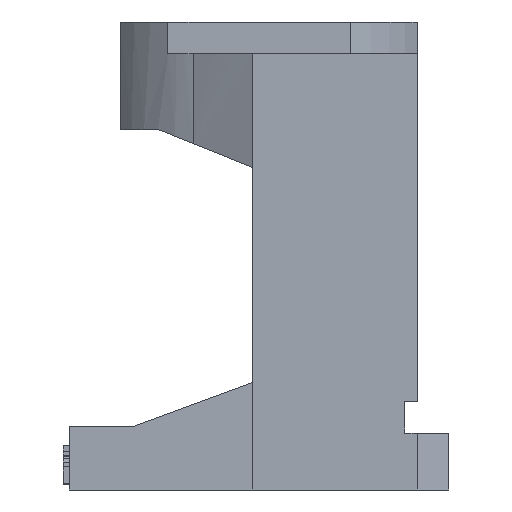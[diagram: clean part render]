
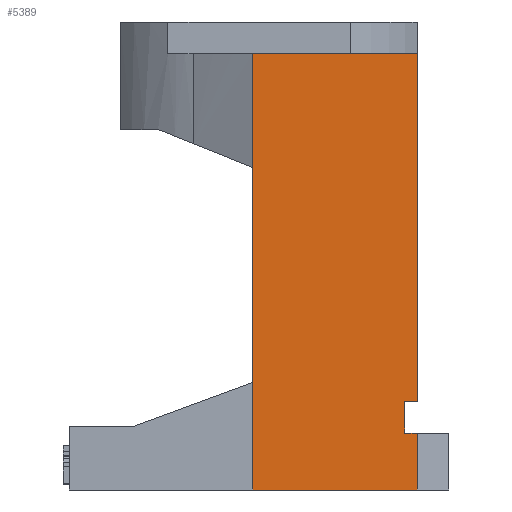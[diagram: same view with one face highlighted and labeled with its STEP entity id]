
A CAD part, left-side view. The second image highlights one B-rep face of the part: STEP entity #5389.
In plain terms, the highlighted planar face has unit normal (-1, 0, 0).
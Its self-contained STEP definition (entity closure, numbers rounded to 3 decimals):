
#1063=DIRECTION('',(0.,-1.,0.));
#1064=VECTOR('',#1063,2.);
#1065=CARTESIAN_POINT('',(-32.5,-23.,9.));
#1066=LINE('',#1065,#1064);
#1067=DIRECTION('',(0.,0.,1.));
#1068=VECTOR('',#1067,5.);
#1069=CARTESIAN_POINT('',(-32.5,-23.,4.));
#1070=LINE('',#1069,#1068);
#1071=DIRECTION('',(0.,1.,0.));
#1072=VECTOR('',#1071,2.);
#1073=CARTESIAN_POINT('',(-32.5,-25.,4.));
#1074=LINE('',#1073,#1072);
#1075=DIRECTION('',(0.,0.,1.));
#1076=VECTOR('',#1075,9.);
#1077=CARTESIAN_POINT('',(-32.5,-25.,-5.));
#1078=LINE('',#1077,#1076);
#1079=DIRECTION('',(0.,-1.,0.));
#1080=VECTOR('',#1079,26.);
#1081=CARTESIAN_POINT('',(-32.5,1.,-5.));
#1082=LINE('',#1081,#1080);
#1083=DIRECTION('',(0.,0.,-1.));
#1084=VECTOR('',#1083,69.);
#1085=CARTESIAN_POINT('',(-32.5,1.,64.));
#1086=LINE('',#1085,#1084);
#1087=DIRECTION('',(0.,1.,0.));
#1088=VECTOR('',#1087,26.);
#1089=CARTESIAN_POINT('',(-32.5,-25.,64.));
#1090=LINE('',#1089,#1088);
#1091=DIRECTION('',(0.,0.,1.));
#1092=VECTOR('',#1091,55.);
#1093=CARTESIAN_POINT('',(-32.5,-25.,9.));
#1094=LINE('',#1093,#1092);
#3215=CARTESIAN_POINT('',(-32.5,1.,-5.));
#3216=VERTEX_POINT('',#3215);
#3217=CARTESIAN_POINT('',(-32.5,1.,64.));
#3218=VERTEX_POINT('',#3217);
#3223=CARTESIAN_POINT('',(-32.5,-25.,64.));
#3224=VERTEX_POINT('',#3223);
#3225=CARTESIAN_POINT('',(-32.5,-25.,9.));
#3226=VERTEX_POINT('',#3225);
#3310=CARTESIAN_POINT('',(-32.5,-23.,9.));
#3312=VERTEX_POINT('',#3310);
#3345=CARTESIAN_POINT('',(-32.5,-25.,-5.));
#3346=CARTESIAN_POINT('',(-32.5,-25.,4.));
#3347=VERTEX_POINT('',#3345);
#3348=VERTEX_POINT('',#3346);
#3497=CARTESIAN_POINT('',(-32.5,-23.,4.));
#3498=VERTEX_POINT('',#3497);
#5371=CARTESIAN_POINT('',(-32.5,-25.,64.));
#5372=DIRECTION('',(-1.,0.,0.));
#5373=DIRECTION('',(0.,-1.,0.));
#5374=AXIS2_PLACEMENT_3D('',#5371,#5372,#5373);
#5375=PLANE('',#5374);
#5377=ORIENTED_EDGE('',*,*,#5376,.F.);
#5379=ORIENTED_EDGE('',*,*,#5378,.F.);
#5380=ORIENTED_EDGE('',*,*,#5180,.F.);
#5381=ORIENTED_EDGE('',*,*,#5365,.F.);
#5382=ORIENTED_EDGE('',*,*,#4986,.F.);
#5383=ORIENTED_EDGE('',*,*,#4756,.F.);
#5385=ORIENTED_EDGE('',*,*,#5384,.F.);
#5386=ORIENTED_EDGE('',*,*,#4621,.F.);
#5387=EDGE_LOOP('',(#5377,#5379,#5380,#5381,#5382,#5383,#5385,#5386));
#5388=FACE_OUTER_BOUND('',#5387,.F.);
#4621=EDGE_CURVE('',#3226,#3224,#1094,.T.);
#4756=EDGE_CURVE('',#3218,#3216,#1086,.T.);
#4986=EDGE_CURVE('',#3216,#3347,#1082,.T.);
#5180=EDGE_CURVE('',#3348,#3498,#1074,.T.);
#5365=EDGE_CURVE('',#3347,#3348,#1078,.T.);
#5376=EDGE_CURVE('',#3312,#3226,#1066,.T.);
#5378=EDGE_CURVE('',#3498,#3312,#1070,.T.);
#5384=EDGE_CURVE('',#3224,#3218,#1090,.T.);
#5389=ADVANCED_FACE('',(#5388),#5375,.T.);
